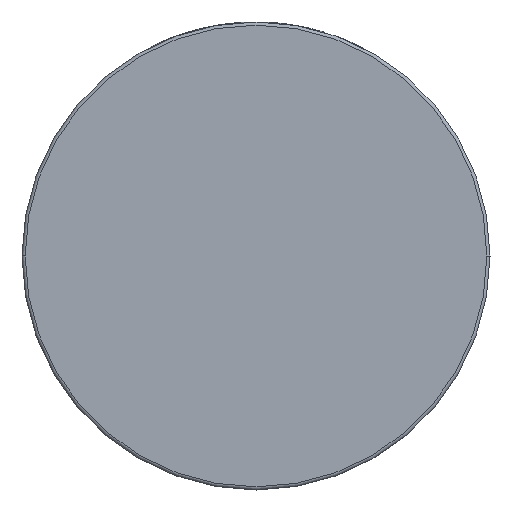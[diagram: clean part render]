
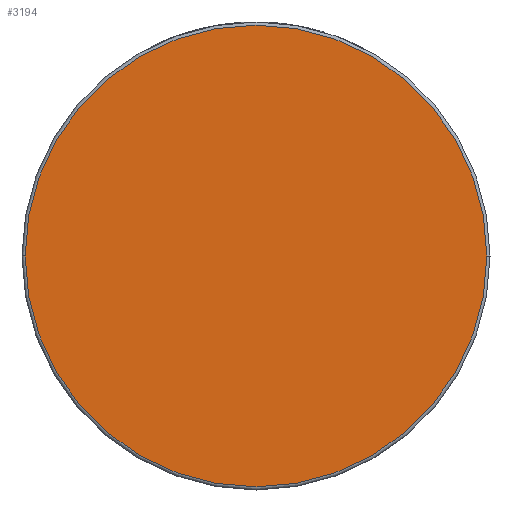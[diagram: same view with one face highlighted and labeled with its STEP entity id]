
A CAD part, front view. The second image highlights one B-rep face of the part: STEP entity #3194.
In plain terms, the highlighted planar face has unit normal (0, -1, 0).
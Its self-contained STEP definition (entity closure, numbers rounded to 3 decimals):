
#737 = EDGE_CURVE ( 'NONE', #3984, #2871, #1898, .T. ) ;
#843 = EDGE_LOOP ( 'NONE', ( #3653, #2661 ) ) ;
#1032 = CARTESIAN_POINT ( 'NONE',  ( 74., -38., 0. ) ) ;
#1053 = FACE_OUTER_BOUND ( 'NONE', #843, .T. ) ;
#1290 = AXIS2_PLACEMENT_3D ( 'NONE', #1525, #1483, #3951 ) ;
#1399 = DIRECTION ( 'NONE',  ( 1., 0., 0. ) ) ;
#1464 = AXIS2_PLACEMENT_3D ( 'NONE', #3865, #4560, #1399 ) ;
#1483 = DIRECTION ( 'NONE',  ( 0., -1., 0. ) ) ;
#1525 = CARTESIAN_POINT ( 'NONE',  ( 0., -38., 0. ) ) ;
#1868 = AXIS2_PLACEMENT_3D ( 'NONE', #1032, #3459, #2807 ) ;
#1898 = CIRCLE ( 'NONE', #1464, 73. ) ;
#2124 = PLANE ( 'NONE',  #1868 ) ;
#2286 = CARTESIAN_POINT ( 'NONE',  ( 73., -38., 0. ) ) ;
#2661 = ORIENTED_EDGE ( 'NONE', *, *, #4523, .T. ) ;
#2807 = DIRECTION ( 'NONE',  ( 1., 0., 0. ) ) ;
#2871 = VERTEX_POINT ( 'NONE', #4159 ) ;
#3194 = ADVANCED_FACE ( 'NONE', ( #1053 ), #2124, .T. ) ;
#3459 = DIRECTION ( 'NONE',  ( 0., -1., 0. ) ) ;
#3644 = CIRCLE ( 'NONE', #1290, 73. ) ;
#3653 = ORIENTED_EDGE ( 'NONE', *, *, #737, .T. ) ;
#3865 = CARTESIAN_POINT ( 'NONE',  ( 0., -38., 0. ) ) ;
#3951 = DIRECTION ( 'NONE',  ( 1., 0., 0. ) ) ;
#3984 = VERTEX_POINT ( 'NONE', #2286 ) ;
#4159 = CARTESIAN_POINT ( 'NONE',  ( -73., -38., 0. ) ) ;
#4523 = EDGE_CURVE ( 'NONE', #2871, #3984, #3644, .T. ) ;
#4560 = DIRECTION ( 'NONE',  ( 0., -1., 0. ) ) ;
